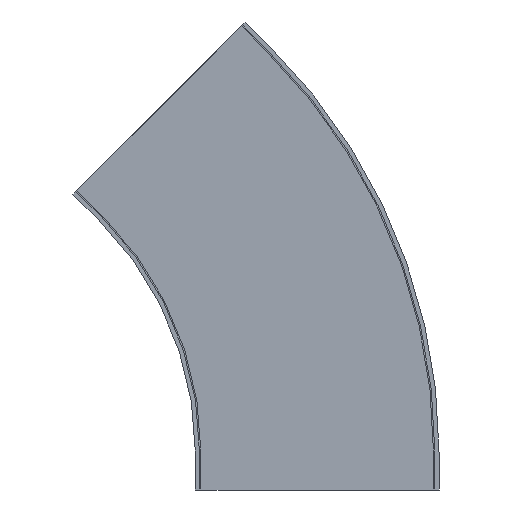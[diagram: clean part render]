
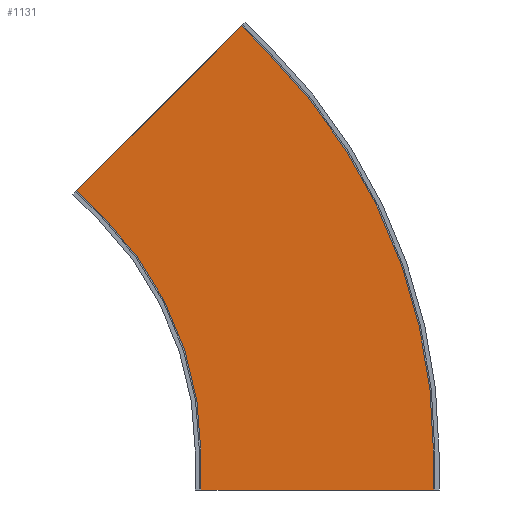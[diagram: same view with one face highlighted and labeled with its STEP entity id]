
A CAD part, front view. The second image highlights one B-rep face of the part: STEP entity #1131.
In plain terms, the highlighted planar face has unit normal (0, -1, 0).
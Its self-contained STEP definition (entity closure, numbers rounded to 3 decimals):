
#1 = EDGE_CURVE ( 'NONE', #87, #1790, #595, .T. ) ;
#87 = VERTEX_POINT ( 'NONE', #1231 ) ;
#96 = LINE ( 'NONE', #115, #373 ) ;
#115 = CARTESIAN_POINT ( 'NONE',  ( 0., -68.25, -52.5 ) ) ;
#129 = ORIENTED_EDGE ( 'NONE', *, *, #1984, .T. ) ;
#217 = LINE ( 'NONE', #1937, #1913 ) ;
#319 = AXIS2_PLACEMENT_3D ( 'NONE', #1639, #492, #1418 ) ;
#343 = CARTESIAN_POINT ( 'NONE',  ( 474.9, -68.25, -52.5 ) ) ;
#373 = VECTOR ( 'NONE', #2385, 1000. ) ;
#426 = EDGE_CURVE ( 'NONE', #1196, #655, #96, .T. ) ;
#445 = VERTEX_POINT ( 'NONE', #1426 ) ;
#492 = DIRECTION ( 'NONE',  ( 0., 1., 0. ) ) ;
#515 = CIRCLE ( 'NONE', #1171, 805.1 ) ;
#533 = DIRECTION ( 'NONE',  ( -1., 0., 0. ) ) ;
#544 = LINE ( 'NONE', #614, #1469 ) ;
#548 = ORIENTED_EDGE ( 'NONE', *, *, #798, .T. ) ;
#580 = EDGE_CURVE ( 'NONE', #1934, #87, #2459, .T. ) ;
#593 = EDGE_LOOP ( 'NONE', ( #1442, #926, #2363, #129, #2463, #1098, #2151, #548 ) ) ;
#595 = LINE ( 'NONE', #1601, #961 ) ;
#614 = CARTESIAN_POINT ( 'NONE',  ( 474.9, -68.25, -52.5 ) ) ;
#643 = AXIS2_PLACEMENT_3D ( 'NONE', #917, #1657, #533 ) ;
#655 = VERTEX_POINT ( 'NONE', #343 ) ;
#691 = EDGE_CURVE ( 'NONE', #1790, #1129, #515, .T. ) ;
#798 = EDGE_CURVE ( 'NONE', #1934, #445, #217, .T. ) ;
#847 = EDGE_CURVE ( 'NONE', #655, #2307, #544, .T. ) ;
#851 = CARTESIAN_POINT ( 'NONE',  ( 805.1, -68.25, 0. ) ) ;
#881 = LINE ( 'NONE', #2035, #2377 ) ;
#917 = CARTESIAN_POINT ( 'NONE',  ( 335.805, -68.25, 335.805 ) ) ;
#926 = ORIENTED_EDGE ( 'NONE', *, *, #847, .F. ) ;
#941 = CARTESIAN_POINT ( 'NONE',  ( 0., -68.25, 0. ) ) ;
#961 = VECTOR ( 'NONE', #2188, 1000. ) ;
#1000 = DIRECTION ( 'NONE',  ( 0., 0., 1. ) ) ;
#1031 = CARTESIAN_POINT ( 'NONE',  ( 569.292, -68.25, 569.292 ) ) ;
#1088 = EDGE_CURVE ( 'NONE', #445, #2307, #1829, .T. ) ;
#1098 = ORIENTED_EDGE ( 'NONE', *, *, #1, .F. ) ;
#1129 = VERTEX_POINT ( 'NONE', #851 ) ;
#1131 = ADVANCED_FACE ( 'NONE', ( #1528 ), #1455, .F. ) ;
#1171 = AXIS2_PLACEMENT_3D ( 'NONE', #941, #2476, #1351 ) ;
#1179 = DIRECTION ( 'NONE',  ( 0.707, 0., -0.707 ) ) ;
#1196 = VERTEX_POINT ( 'NONE', #1695 ) ;
#1231 = CARTESIAN_POINT ( 'NONE',  ( 532.169, -68.25, 606.415 ) ) ;
#1261 = VECTOR ( 'NONE', #1511, 1000. ) ;
#1351 = DIRECTION ( 'NONE',  ( -1., 0., 0. ) ) ;
#1418 = DIRECTION ( 'NONE',  ( -1., 0., 0. ) ) ;
#1426 = CARTESIAN_POINT ( 'NONE',  ( 335.805, -68.25, 335.805 ) ) ;
#1442 = ORIENTED_EDGE ( 'NONE', *, *, #1088, .T. ) ;
#1455 = PLANE ( 'NONE',  #643 ) ;
#1469 = VECTOR ( 'NONE', #1000, 1000. ) ;
#1511 = DIRECTION ( 'NONE',  ( 0.707, 0., 0.707 ) ) ;
#1528 = FACE_OUTER_BOUND ( 'NONE', #593, .T. ) ;
#1601 = CARTESIAN_POINT ( 'NONE',  ( 532.169, -68.25, 606.415 ) ) ;
#1639 = CARTESIAN_POINT ( 'NONE',  ( 0., -68.25, 0. ) ) ;
#1657 = DIRECTION ( 'NONE',  ( 0., 1., 0. ) ) ;
#1674 = CARTESIAN_POINT ( 'NONE',  ( 298.682, -68.25, 372.928 ) ) ;
#1695 = CARTESIAN_POINT ( 'NONE',  ( 805.1, -68.25, -52.5 ) ) ;
#1790 = VERTEX_POINT ( 'NONE', #1031 ) ;
#1829 = CIRCLE ( 'NONE', #319, 474.9 ) ;
#1913 = VECTOR ( 'NONE', #1179, 1000. ) ;
#1934 = VERTEX_POINT ( 'NONE', #1674 ) ;
#1937 = CARTESIAN_POINT ( 'NONE',  ( 298.682, -68.25, 372.928 ) ) ;
#1984 = EDGE_CURVE ( 'NONE', #1196, #1129, #881, .T. ) ;
#2035 = CARTESIAN_POINT ( 'NONE',  ( 805.1, -68.25, -52.5 ) ) ;
#2151 = ORIENTED_EDGE ( 'NONE', *, *, #580, .F. ) ;
#2188 = DIRECTION ( 'NONE',  ( 0.707, 0., -0.707 ) ) ;
#2237 = DIRECTION ( 'NONE',  ( 0., 0., 1. ) ) ;
#2240 = CARTESIAN_POINT ( 'NONE',  ( -37.123, -68.25, 37.123 ) ) ;
#2307 = VERTEX_POINT ( 'NONE', #2320 ) ;
#2320 = CARTESIAN_POINT ( 'NONE',  ( 474.9, -68.25, 0. ) ) ;
#2363 = ORIENTED_EDGE ( 'NONE', *, *, #426, .F. ) ;
#2377 = VECTOR ( 'NONE', #2237, 1000. ) ;
#2385 = DIRECTION ( 'NONE',  ( -1., 0., 0. ) ) ;
#2459 = LINE ( 'NONE', #2240, #1261 ) ;
#2463 = ORIENTED_EDGE ( 'NONE', *, *, #691, .F. ) ;
#2476 = DIRECTION ( 'NONE',  ( 0., 1., 0. ) ) ;
